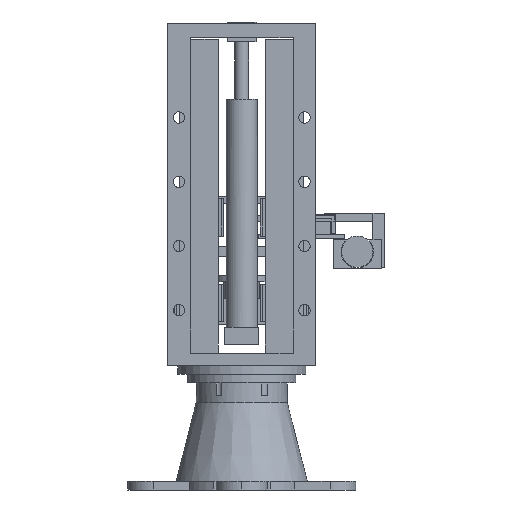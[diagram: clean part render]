
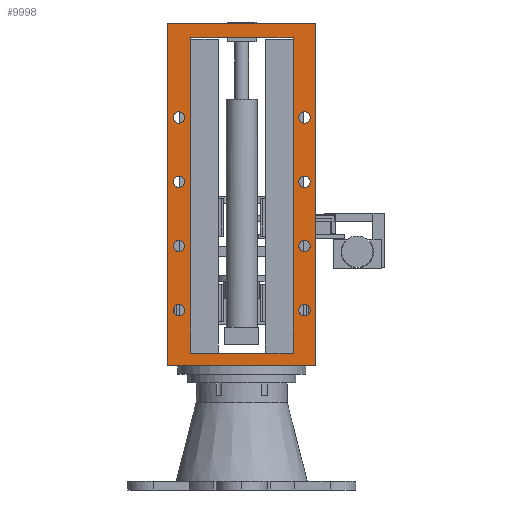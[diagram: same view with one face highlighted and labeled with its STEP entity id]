
A CAD part, front view. The second image highlights one B-rep face of the part: STEP entity #9998.
In plain terms, the highlighted planar face has unit normal (0, -1, 0).
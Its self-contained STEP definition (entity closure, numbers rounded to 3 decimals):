
#8734 = VERTEX_POINT('',#8735);
#8735 = CARTESIAN_POINT('',(-52.,-18.,321.));
#8741 = EDGE_CURVE('',#8734,#8742,#8744,.T.);
#8742 = VERTEX_POINT('',#8743);
#8743 = CARTESIAN_POINT('',(52.,-18.,321.));
#8744 = LINE('',#8745,#8746);
#8745 = CARTESIAN_POINT('',(-52.,-18.,321.));
#8746 = VECTOR('',#8747,1.);
#8747 = DIRECTION('',(1.,0.,0.));
#8887 = VERTEX_POINT('',#8888);
#8888 = CARTESIAN_POINT('',(-36.,-18.,311.));
#8894 = EDGE_CURVE('',#8887,#8895,#8897,.T.);
#8895 = VERTEX_POINT('',#8896);
#8896 = CARTESIAN_POINT('',(36.,-18.,311.));
#8897 = LINE('',#8898,#8899);
#8898 = CARTESIAN_POINT('',(-52.,-18.,311.));
#8899 = VECTOR('',#8900,1.);
#8900 = DIRECTION('',(1.,0.,0.));
#9006 = VERTEX_POINT('',#9007);
#9007 = CARTESIAN_POINT('',(-36.,-18.,90.));
#9013 = EDGE_CURVE('',#9006,#9014,#9016,.T.);
#9014 = VERTEX_POINT('',#9015);
#9015 = CARTESIAN_POINT('',(36.,-18.,90.));
#9016 = LINE('',#9017,#9018);
#9017 = CARTESIAN_POINT('',(-52.,-18.,90.));
#9018 = VECTOR('',#9019,1.);
#9019 = DIRECTION('',(1.,0.,0.));
#9157 = VERTEX_POINT('',#9158);
#9158 = CARTESIAN_POINT('',(-52.,-18.,81.));
#9164 = EDGE_CURVE('',#9157,#9165,#9167,.T.);
#9165 = VERTEX_POINT('',#9166);
#9166 = CARTESIAN_POINT('',(52.,-18.,81.));
#9167 = LINE('',#9168,#9169);
#9168 = CARTESIAN_POINT('',(-52.,-18.,81.));
#9169 = VECTOR('',#9170,1.);
#9170 = DIRECTION('',(1.,0.,0.));
#9407 = EDGE_CURVE('',#9014,#8895,#9408,.T.);
#9408 = LINE('',#9409,#9410);
#9409 = CARTESIAN_POINT('',(36.,-18.,90.));
#9410 = VECTOR('',#9411,1.);
#9411 = DIRECTION('',(0.,0.,1.));
#9424 = EDGE_CURVE('',#9006,#8887,#9425,.T.);
#9425 = LINE('',#9426,#9427);
#9426 = CARTESIAN_POINT('',(-36.,-18.,90.));
#9427 = VECTOR('',#9428,1.);
#9428 = DIRECTION('',(0.,0.,1.));
#9595 = VERTEX_POINT('',#9596);
#9596 = CARTESIAN_POINT('',(-44.,-18.,124.));
#9602 = EDGE_CURVE('',#9595,#9595,#9603,.T.);
#9603 = CIRCLE('',#9604,4.);
#9604 = AXIS2_PLACEMENT_3D('',#9605,#9606,#9607);
#9605 = CARTESIAN_POINT('',(-44.,-18.,120.));
#9606 = DIRECTION('',(0.,1.,0.));
#9607 = DIRECTION('',(0.,0.,1.));
#9620 = VERTEX_POINT('',#9621);
#9621 = CARTESIAN_POINT('',(-44.,-18.,169.));
#9627 = EDGE_CURVE('',#9620,#9620,#9628,.T.);
#9628 = CIRCLE('',#9629,4.);
#9629 = AXIS2_PLACEMENT_3D('',#9630,#9631,#9632);
#9630 = CARTESIAN_POINT('',(-44.,-18.,165.));
#9631 = DIRECTION('',(0.,1.,0.));
#9632 = DIRECTION('',(0.,0.,1.));
#9645 = VERTEX_POINT('',#9646);
#9646 = CARTESIAN_POINT('',(-44.,-18.,214.));
#9652 = EDGE_CURVE('',#9645,#9645,#9653,.T.);
#9653 = CIRCLE('',#9654,4.);
#9654 = AXIS2_PLACEMENT_3D('',#9655,#9656,#9657);
#9655 = CARTESIAN_POINT('',(-44.,-18.,210.));
#9656 = DIRECTION('',(0.,1.,0.));
#9657 = DIRECTION('',(0.,0.,1.));
#9670 = VERTEX_POINT('',#9671);
#9671 = CARTESIAN_POINT('',(-44.,-18.,259.));
#9677 = EDGE_CURVE('',#9670,#9670,#9678,.T.);
#9678 = CIRCLE('',#9679,4.);
#9679 = AXIS2_PLACEMENT_3D('',#9680,#9681,#9682);
#9680 = CARTESIAN_POINT('',(-44.,-18.,255.));
#9681 = DIRECTION('',(0.,1.,0.));
#9682 = DIRECTION('',(0.,0.,1.));
#9695 = VERTEX_POINT('',#9696);
#9696 = CARTESIAN_POINT('',(44.,-18.,124.));
#9702 = EDGE_CURVE('',#9695,#9695,#9703,.T.);
#9703 = CIRCLE('',#9704,4.);
#9704 = AXIS2_PLACEMENT_3D('',#9705,#9706,#9707);
#9705 = CARTESIAN_POINT('',(44.,-18.,120.));
#9706 = DIRECTION('',(0.,1.,0.));
#9707 = DIRECTION('',(0.,0.,1.));
#9720 = VERTEX_POINT('',#9721);
#9721 = CARTESIAN_POINT('',(44.,-18.,169.));
#9727 = EDGE_CURVE('',#9720,#9720,#9728,.T.);
#9728 = CIRCLE('',#9729,4.);
#9729 = AXIS2_PLACEMENT_3D('',#9730,#9731,#9732);
#9730 = CARTESIAN_POINT('',(44.,-18.,165.));
#9731 = DIRECTION('',(0.,1.,0.));
#9732 = DIRECTION('',(0.,0.,1.));
#9745 = VERTEX_POINT('',#9746);
#9746 = CARTESIAN_POINT('',(44.,-18.,214.));
#9752 = EDGE_CURVE('',#9745,#9745,#9753,.T.);
#9753 = CIRCLE('',#9754,4.);
#9754 = AXIS2_PLACEMENT_3D('',#9755,#9756,#9757);
#9755 = CARTESIAN_POINT('',(44.,-18.,210.));
#9756 = DIRECTION('',(0.,1.,0.));
#9757 = DIRECTION('',(0.,0.,1.));
#9770 = VERTEX_POINT('',#9771);
#9771 = CARTESIAN_POINT('',(44.,-18.,259.));
#9777 = EDGE_CURVE('',#9770,#9770,#9778,.T.);
#9778 = CIRCLE('',#9779,4.);
#9779 = AXIS2_PLACEMENT_3D('',#9780,#9781,#9782);
#9780 = CARTESIAN_POINT('',(44.,-18.,255.));
#9781 = DIRECTION('',(0.,1.,0.));
#9782 = DIRECTION('',(0.,0.,1.));
#9981 = EDGE_CURVE('',#9157,#8734,#9982,.T.);
#9982 = LINE('',#9983,#9984);
#9983 = CARTESIAN_POINT('',(-52.,-18.,81.));
#9984 = VECTOR('',#9985,1.);
#9985 = DIRECTION('',(0.,0.,1.));
#9998 = ADVANCED_FACE('',(#9999,#10010,#10016,#10019,#10022,#10025,
    #10028,#10031,#10034,#10037),#10040,.T.);
#9999 = FACE_BOUND('',#10000,.T.);
#10000 = EDGE_LOOP('',(#10001,#10002,#10008,#10009));
#10001 = ORIENTED_EDGE('',*,*,#9164,.T.);
#10002 = ORIENTED_EDGE('',*,*,#10003,.T.);
#10003 = EDGE_CURVE('',#9165,#8742,#10004,.T.);
#10004 = LINE('',#10005,#10006);
#10005 = CARTESIAN_POINT('',(52.,-18.,81.));
#10006 = VECTOR('',#10007,1.);
#10007 = DIRECTION('',(0.,0.,1.));
#10008 = ORIENTED_EDGE('',*,*,#8741,.F.);
#10009 = ORIENTED_EDGE('',*,*,#9981,.F.);
#10010 = FACE_BOUND('',#10011,.T.);
#10011 = EDGE_LOOP('',(#10012,#10013,#10014,#10015));
#10012 = ORIENTED_EDGE('',*,*,#9013,.F.);
#10013 = ORIENTED_EDGE('',*,*,#9424,.T.);
#10014 = ORIENTED_EDGE('',*,*,#8894,.T.);
#10015 = ORIENTED_EDGE('',*,*,#9407,.F.);
#10016 = FACE_BOUND('',#10017,.T.);
#10017 = EDGE_LOOP('',(#10018));
#10018 = ORIENTED_EDGE('',*,*,#9602,.T.);
#10019 = FACE_BOUND('',#10020,.T.);
#10020 = EDGE_LOOP('',(#10021));
#10021 = ORIENTED_EDGE('',*,*,#9627,.T.);
#10022 = FACE_BOUND('',#10023,.T.);
#10023 = EDGE_LOOP('',(#10024));
#10024 = ORIENTED_EDGE('',*,*,#9652,.T.);
#10025 = FACE_BOUND('',#10026,.T.);
#10026 = EDGE_LOOP('',(#10027));
#10027 = ORIENTED_EDGE('',*,*,#9677,.T.);
#10028 = FACE_BOUND('',#10029,.T.);
#10029 = EDGE_LOOP('',(#10030));
#10030 = ORIENTED_EDGE('',*,*,#9702,.T.);
#10031 = FACE_BOUND('',#10032,.T.);
#10032 = EDGE_LOOP('',(#10033));
#10033 = ORIENTED_EDGE('',*,*,#9727,.T.);
#10034 = FACE_BOUND('',#10035,.T.);
#10035 = EDGE_LOOP('',(#10036));
#10036 = ORIENTED_EDGE('',*,*,#9752,.T.);
#10037 = FACE_BOUND('',#10038,.T.);
#10038 = EDGE_LOOP('',(#10039));
#10039 = ORIENTED_EDGE('',*,*,#9777,.T.);
#10040 = PLANE('',#10041);
#10041 = AXIS2_PLACEMENT_3D('',#10042,#10043,#10044);
#10042 = CARTESIAN_POINT('',(0.,-18.,201.));
#10043 = DIRECTION('',(-0.,-1.,-0.));
#10044 = DIRECTION('',(0.,0.,-1.));
